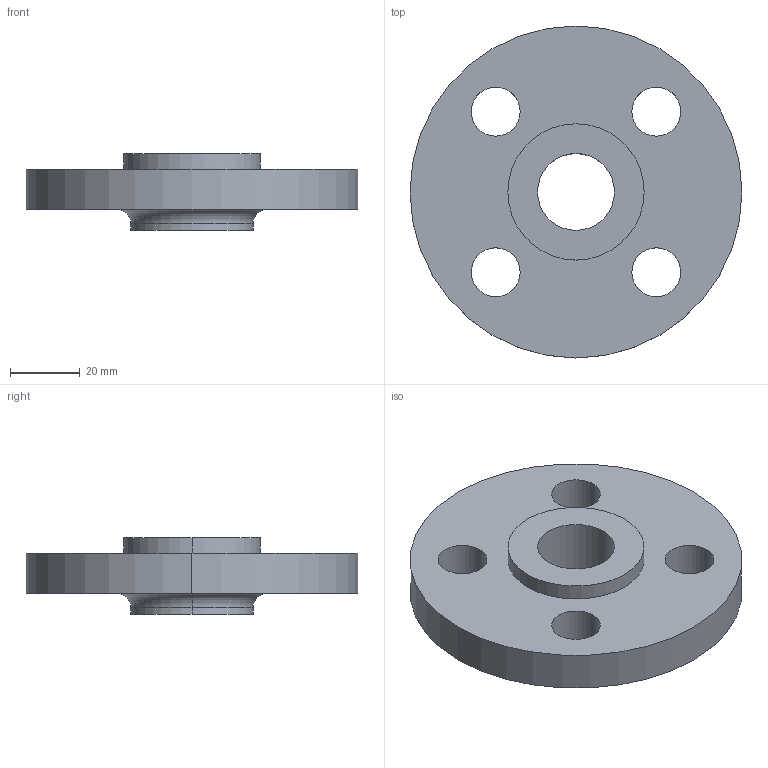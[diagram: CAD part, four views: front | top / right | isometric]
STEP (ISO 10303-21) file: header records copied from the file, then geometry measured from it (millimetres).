
FILE_DESCRIPTION (( 'STEP AP214' ), '1' );
FILE_NAME ('PN40 DN15 Type 12 - Type E Face.STEP', '2018-12-29T14:59:18', ( '' ), ( '' ), 'SwSTEP 2.0', 'SolidWorks 2019', '' );
FILE_SCHEMA (( 'AUTOMOTIVE_DESIGN' ));
Length unit declared in the file: millimetre
Products named in the file (1): PN40 DN15 Type 12 - Type E Face
Bounding box: 95 x 95 x 22 mm (x, y, z)
Volume: 77615.6 mm3; surface area: 20190 mm2
Topology: 1 solids, 1 shells, 22 faces, 52 edges, 34 vertices
Faces by surface type: cylinder 16, plane 4, torus 2
Entity records: 710 total; most frequent: DIRECTION 134, CARTESIAN_POINT 109, ORIENTED_EDGE 104, AXIS2_PLACEMENT_3D 59, EDGE_CURVE 52, CIRCLE 36, EDGE_LOOP 34, VERTEX_POINT 34
